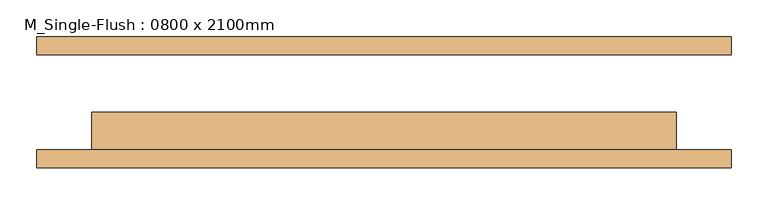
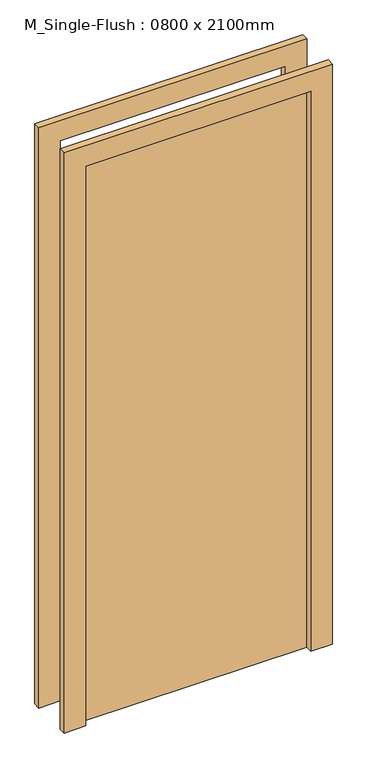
"""IFC4 building model written with IfcOpenShell, lengths in millimetres: door geometry, M_Single-Flush : 0800 x 2100mm."""

from ifc_helpers import new_model, si_unit, frame, origin, origin_with_axes, place, context, project, spatial, polyline, outline, extrude, source, transform, mapped, element, save


def m_single_flush_0800_x_2100mm_21ec692d(model_context):
    return source(origin(), model_context, "Body", "SweptSolid", [
        extrude(outline(polyline([(2176.0, -476.0), (0.0, -476.0), (0.0, -400.0), (2100.0, -400.0), (2100.0, 400.0), (0.0, 400.0), (0.0, 476.0), (2176.0, 476.0), (2176.0, -476.0)])), frame((0.0, -90.0, 0.0), z_axis=(0.0, 1.0, 0.0), x_axis=(0.0, 0.0, 1.0)), (0.0, 0.0, 1.0), 25.0),
        extrude(outline(polyline([(2176.0, 476.0), (2176.0, -476.0), (0.0, -476.0), (0.0, -400.0), (2100.0, -400.0), (2100.0, 400.0), (0.0, 400.0), (0.0, 476.0), (2176.0, 476.0)])), frame((0.0, 65.0, 0.0), z_axis=(0.0, 1.0, 0.0), x_axis=(0.0, 0.0, 1.0)), (0.0, 0.0, 1.0), 25.0),
        extrude(outline(polyline([(400.0, -14.0), (400.0, -65.0), (-400.0, -65.0), (-400.0, -14.0), (400.0, -14.0)])), origin_with_axes(), (0.0, 0.0, 1.0), 2100.0),
    ])


if __name__ == "__main__":
    model = new_model("IFC4")
    model_context = context("Model", 3, world=origin())
    ifc_project = project(units=[si_unit("LENGTHUNIT", "METRE", prefix="MILLI")], contexts=[model_context])
    site = spatial("IfcSite", under=ifc_project)
    building = spatial("IfcBuilding", under=site)
    placement = place(None, origin())
    m_single_flush_0800_x_2100mm_shape = m_single_flush_0800_x_2100mm_21ec692d(model_context)
    element("IfcDoor", 1, ObjectType="M_Single-Flush : 0800 x 2100mm", at=placement, inside=building, context=model_context, shape_type="MappedRepresentation", body=[
        mapped(m_single_flush_0800_x_2100mm_shape, transform((0.0, 0.0, 0.0), x_axis=(1.0, 0.0, 0.0), y_axis=(0.0, 1.0, 0.0), z_axis=(0.0, 0.0, 1.0))),
    ])
    save(model, "model.ifc")
